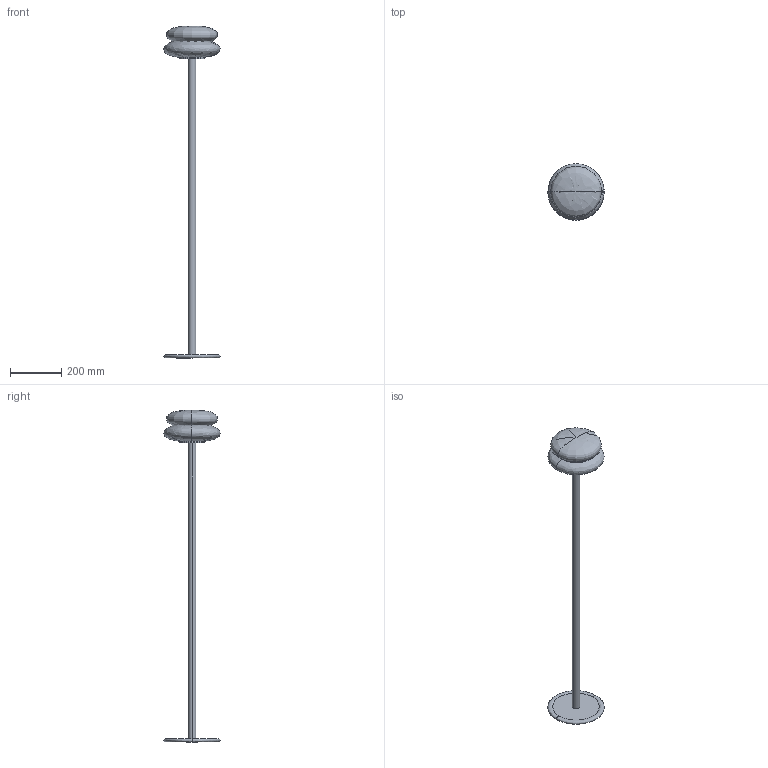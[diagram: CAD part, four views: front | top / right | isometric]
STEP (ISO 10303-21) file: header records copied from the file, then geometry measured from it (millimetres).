
FILE_DESCRIPTION(/* description */ (''),/* implementation_level */ '2;1');
FILE_NAME(/* name */ 'ILKW_SNOWMAN22 V2_Floor_3D',/* time_stamp */ '2026-08-25T17:41:42+09:00',/* author */ (''),/* organization */ (''),/* preprocessor_version */ 'ST-DEVELOPER v19.2',/* originating_system */ 'Rhino 8.21',/* authorisation */ '');
FILE_SCHEMA (('CONFIG_CONTROL_DESIGN'));
Length unit declared in the file: millimetre
Products named in the file (1): Document
Bounding box: 219.99 x 220.01 x 1300 mm (x, y, z)
Volume: 4718741.9 mm3; surface area: 330941.2 mm2
Topology: 1 solids, 1 shells, 10 faces, 22 edges, 12 vertices
Faces by surface type: cylinder 4, bspline 4, plane 2
Entity records: 916 total; most frequent: CARTESIAN_POINT 668, ORIENTED_EDGE 36, DIRECTION 22, EDGE_CURVE 18, AXIS2_PLACEMENT_3D 14, EDGE_LOOP 12, VERTEX_POINT 12, ADVANCED_FACE 10
